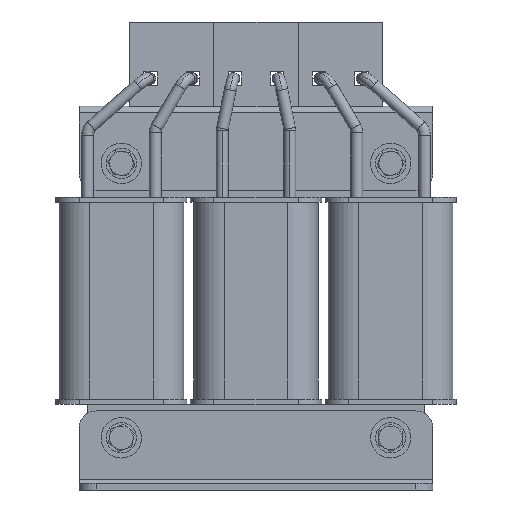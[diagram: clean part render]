
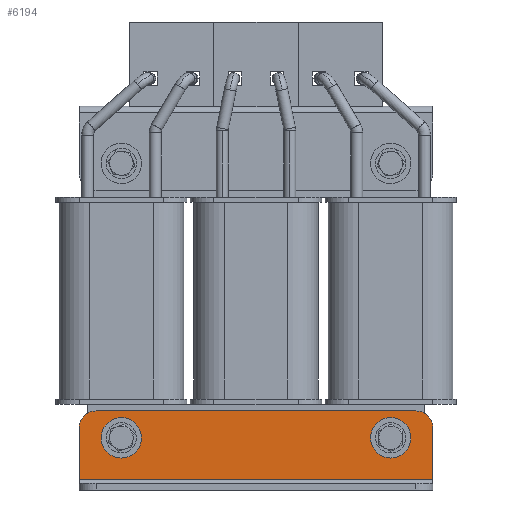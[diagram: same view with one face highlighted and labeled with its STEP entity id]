
A CAD part, front view. The second image highlights one B-rep face of the part: STEP entity #6194.
In plain terms, the highlighted planar face has unit normal (0, -1, 0) as drawn and (0, 1, 0) by its records, which use the part's own axes.
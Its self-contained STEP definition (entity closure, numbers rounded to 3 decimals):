
#350 = EDGE_CURVE ( 'NONE', #2960, #1300, #7782, .T. ) ;
#440 = CARTESIAN_POINT ( 'NONE',  ( -40., 2., 15.5 ) ) ;
#475 = VECTOR ( 'NONE', #5435, 1000. ) ;
#489 = DIRECTION ( 'NONE',  ( 0., 1., 0. ) ) ;
#502 = CARTESIAN_POINT ( 'NONE',  ( 52.5, 2., 3. ) ) ;
#708 = ORIENTED_EDGE ( 'NONE', *, *, #5494, .F. ) ;
#733 = CARTESIAN_POINT ( 'NONE',  ( -40., 2., 13.25 ) ) ;
#822 = DIRECTION ( 'NONE',  ( 0., 0., 1. ) ) ;
#1041 = ORIENTED_EDGE ( 'NONE', *, *, #9235, .F. ) ;
#1136 = VECTOR ( 'NONE', #12367, 1000. ) ;
#1214 = VERTEX_POINT ( 'NONE', #5718 ) ;
#1232 = VERTEX_POINT ( 'NONE', #5794 ) ;
#1300 = VERTEX_POINT ( 'NONE', #7042 ) ;
#1417 = DIRECTION ( 'NONE',  ( 0., 1., 0. ) ) ;
#1418 = CARTESIAN_POINT ( 'NONE',  ( -40., 2., 15.5 ) ) ;
#1720 = CIRCLE ( 'NONE', #2124, 2.25 ) ;
#1867 = CARTESIAN_POINT ( 'NONE',  ( 47.5, 2., 23.5 ) ) ;
#1909 = CARTESIAN_POINT ( 'NONE',  ( -52.5, 2., 3. ) ) ;
#1948 = DIRECTION ( 'NONE',  ( 0., 1., 0. ) ) ;
#2021 = CARTESIAN_POINT ( 'NONE',  ( -52.5, 2., 3. ) ) ;
#2092 = ORIENTED_EDGE ( 'NONE', *, *, #2378, .F. ) ;
#2111 = CARTESIAN_POINT ( 'NONE',  ( -47.5, 2., 18.5 ) ) ;
#2124 = AXIS2_PLACEMENT_3D ( 'NONE', #440, #3326, #4064 ) ;
#2378 = EDGE_CURVE ( 'NONE', #10205, #11692, #6065, .T. ) ;
#2644 = DIRECTION ( 'NONE',  ( -1., 0., 0. ) ) ;
#2701 = CIRCLE ( 'NONE', #5534, 2.25 ) ;
#2703 = EDGE_LOOP ( 'NONE', ( #6865, #5053, #6976, #6725, #1041, #2092 ) ) ;
#2767 = EDGE_CURVE ( 'NONE', #9845, #10205, #9340, .T. ) ;
#2832 = PLANE ( 'NONE',  #10860 ) ;
#2960 = VERTEX_POINT ( 'NONE', #10711 ) ;
#3070 = EDGE_CURVE ( 'NONE', #11897, #1214, #6319, .T. ) ;
#3124 = DIRECTION ( 'NONE',  ( 0., 1., 0. ) ) ;
#3326 = DIRECTION ( 'NONE',  ( 0., 1., 0. ) ) ;
#3700 = VECTOR ( 'NONE', #2644, 1000. ) ;
#3798 = AXIS2_PLACEMENT_3D ( 'NONE', #2111, #3124, #10759 ) ;
#3815 = EDGE_LOOP ( 'NONE', ( #8023, #11630 ) ) ;
#3919 = DIRECTION ( 'NONE',  ( 1., 0., 0. ) ) ;
#4064 = DIRECTION ( 'NONE',  ( 0., 0., 1. ) ) ;
#4503 = EDGE_CURVE ( 'NONE', #11897, #1232, #6563, .T. ) ;
#4745 = FACE_OUTER_BOUND ( 'NONE', #2703, .T. ) ;
#4861 = DIRECTION ( 'NONE',  ( 0., 0., 1. ) ) ;
#5053 = ORIENTED_EDGE ( 'NONE', *, *, #12079, .T. ) ;
#5282 = DIRECTION ( 'NONE',  ( 0., 0., 1. ) ) ;
#5435 = DIRECTION ( 'NONE',  ( 0., 0., -1. ) ) ;
#5494 = EDGE_CURVE ( 'NONE', #5704, #6406, #2701, .T. ) ;
#5534 = AXIS2_PLACEMENT_3D ( 'NONE', #1418, #489, #8122 ) ;
#5704 = VERTEX_POINT ( 'NONE', #733 ) ;
#5718 = CARTESIAN_POINT ( 'NONE',  ( 52.5, 2., 18.5 ) ) ;
#5794 = CARTESIAN_POINT ( 'NONE',  ( -47.5, 2., 23.5 ) ) ;
#6065 = LINE ( 'NONE', #2021, #10134 ) ;
#6194 = ADVANCED_FACE ( 'NONE', ( #12286, #7607, #4745 ), #2832, .T. ) ;
#6319 = CIRCLE ( 'NONE', #10360, 5. ) ;
#6342 = DIRECTION ( 'NONE',  ( 0., 1., 0. ) ) ;
#6406 = VERTEX_POINT ( 'NONE', #7834 ) ;
#6407 = DIRECTION ( 'NONE',  ( 0., 0., 1. ) ) ;
#6563 = LINE ( 'NONE', #10471, #3700 ) ;
#6697 = AXIS2_PLACEMENT_3D ( 'NONE', #10069, #1417, #5282 ) ;
#6725 = ORIENTED_EDGE ( 'NONE', *, *, #3070, .T. ) ;
#6865 = ORIENTED_EDGE ( 'NONE', *, *, #2767, .F. ) ;
#6976 = ORIENTED_EDGE ( 'NONE', *, *, #4503, .F. ) ;
#7042 = CARTESIAN_POINT ( 'NONE',  ( 40., 2., 17.75 ) ) ;
#7607 = FACE_BOUND ( 'NONE', #12245, .T. ) ;
#7782 = CIRCLE ( 'NONE', #8782, 2.25 ) ;
#7834 = CARTESIAN_POINT ( 'NONE',  ( -40., 2., 17.75 ) ) ;
#7881 = CARTESIAN_POINT ( 'NONE',  ( 47.5, 2., 18.5 ) ) ;
#8023 = ORIENTED_EDGE ( 'NONE', *, *, #12248, .F. ) ;
#8122 = DIRECTION ( 'NONE',  ( 0., 0., 1. ) ) ;
#8537 = LINE ( 'NONE', #9485, #1136 ) ;
#8716 = CARTESIAN_POINT ( 'NONE',  ( 0., 2., 0. ) ) ;
#8782 = AXIS2_PLACEMENT_3D ( 'NONE', #12190, #6342, #6407 ) ;
#9235 = EDGE_CURVE ( 'NONE', #11692, #1214, #8537, .T. ) ;
#9340 = LINE ( 'NONE', #9523, #475 ) ;
#9405 = CARTESIAN_POINT ( 'NONE',  ( -52.5, 2., 18.5 ) ) ;
#9485 = CARTESIAN_POINT ( 'NONE',  ( 52.5, 2., 23.5 ) ) ;
#9523 = CARTESIAN_POINT ( 'NONE',  ( -52.5, 2., 2. ) ) ;
#9845 = VERTEX_POINT ( 'NONE', #9405 ) ;
#10069 = CARTESIAN_POINT ( 'NONE',  ( 40., 2., 15.5 ) ) ;
#10134 = VECTOR ( 'NONE', #3919, 1000. ) ;
#10167 = EDGE_CURVE ( 'NONE', #6406, #5704, #1720, .T. ) ;
#10205 = VERTEX_POINT ( 'NONE', #1909 ) ;
#10360 = AXIS2_PLACEMENT_3D ( 'NONE', #7881, #1948, #4861 ) ;
#10471 = CARTESIAN_POINT ( 'NONE',  ( -52.5, 2., 23.5 ) ) ;
#10603 = DIRECTION ( 'NONE',  ( 0., 1., 0. ) ) ;
#10647 = CIRCLE ( 'NONE', #3798, 5. ) ;
#10711 = CARTESIAN_POINT ( 'NONE',  ( 40., 2., 13.25 ) ) ;
#10759 = DIRECTION ( 'NONE',  ( 0., 0., 1. ) ) ;
#10860 = AXIS2_PLACEMENT_3D ( 'NONE', #8716, #10603, #822 ) ;
#11630 = ORIENTED_EDGE ( 'NONE', *, *, #350, .F. ) ;
#11692 = VERTEX_POINT ( 'NONE', #502 ) ;
#11897 = VERTEX_POINT ( 'NONE', #1867 ) ;
#11975 = ORIENTED_EDGE ( 'NONE', *, *, #10167, .F. ) ;
#12079 = EDGE_CURVE ( 'NONE', #9845, #1232, #10647, .T. ) ;
#12115 = CIRCLE ( 'NONE', #6697, 2.25 ) ;
#12190 = CARTESIAN_POINT ( 'NONE',  ( 40., 2., 15.5 ) ) ;
#12245 = EDGE_LOOP ( 'NONE', ( #11975, #708 ) ) ;
#12248 = EDGE_CURVE ( 'NONE', #1300, #2960, #12115, .T. ) ;
#12286 = FACE_BOUND ( 'NONE', #3815, .T. ) ;
#12367 = DIRECTION ( 'NONE',  ( 0., 0., 1. ) ) ;
